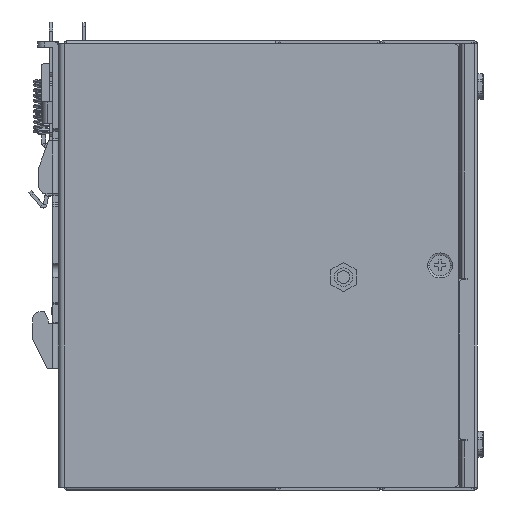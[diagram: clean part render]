
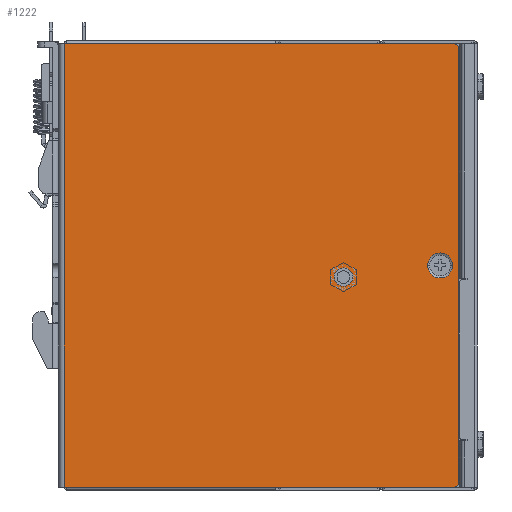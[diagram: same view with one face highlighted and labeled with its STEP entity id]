
A CAD part, front view. The second image highlights one B-rep face of the part: STEP entity #1222.
In plain terms, the highlighted planar face has unit normal (0, -1, 0).
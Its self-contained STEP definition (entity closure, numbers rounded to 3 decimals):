
#21=CARTESIAN_POINT('',(76.9,0.,-64.2));
#22=DIRECTION('',(0.,1.,0.));
#23=DIRECTION('',(0.,0.,-1.));
#24=AXIS2_PLACEMENT_3D('',#21,#22,#23);
#30=CARTESIAN_POINT('',(76.9,0.,-64.2));
#31=DIRECTION('',(0.,1.,0.));
#32=DIRECTION('',(0.,0.,1.));
#33=AXIS2_PLACEMENT_3D('',#30,#31,#32);
#38=CARTESIAN_POINT('',(103.5,0.,-61.));
#39=DIRECTION('',(0.,1.,0.));
#40=DIRECTION('',(1.,0.,0.));
#41=AXIS2_PLACEMENT_3D('',#38,#39,#40);
#46=CARTESIAN_POINT('',(103.5,0.,-61.));
#47=DIRECTION('',(0.,1.,0.));
#48=DIRECTION('',(-1.,0.,0.));
#49=AXIS2_PLACEMENT_3D('',#46,#47,#48);
#54=DIRECTION('',(0.,0.,1.));
#55=VECTOR('',#54,122.);
#56=CARTESIAN_POINT('',(0.,0.,-122.));
#57=LINE('',#56,#55);
#61=DIRECTION('',(1.,0.,0.));
#62=VECTOR('',#61,107.5);
#63=CARTESIAN_POINT('',(0.,0.,0.));
#64=LINE('',#63,#62);
#68=CARTESIAN_POINT('',(107.5,0.,-1.));
#69=DIRECTION('',(0.,-1.,0.));
#70=DIRECTION('',(1.,0.,0.));
#71=AXIS2_PLACEMENT_3D('',#68,#69,#70);
#76=CARTESIAN_POINT('',(107.5,0.,-121.));
#77=DIRECTION('',(0.,-1.,0.));
#78=DIRECTION('',(0.,0.,-1.));
#79=AXIS2_PLACEMENT_3D('',#76,#77,#78);
#84=DIRECTION('',(-1.,0.,0.));
#85=VECTOR('',#84,107.5);
#86=CARTESIAN_POINT('',(107.5,0.,-122.));
#87=LINE('',#86,#85);
#211=DIRECTION('',(0.,0.,1.));
#212=VECTOR('',#211,120.);
#213=CARTESIAN_POINT('',(108.5,0.,-121.));
#214=LINE('',#213,#212);
#1135=CARTESIAN_POINT('',(76.9,0.,-66.7));
#1136=CARTESIAN_POINT('',(76.9,0.,-61.7));
#1137=VERTEX_POINT('',#1135);
#1138=VERTEX_POINT('',#1136);
#1155=CARTESIAN_POINT('',(106.95,0.,-61.));
#1156=CARTESIAN_POINT('',(100.05,0.,-61.));
#1157=VERTEX_POINT('',#1155);
#1158=VERTEX_POINT('',#1156);
#1163=CARTESIAN_POINT('',(107.5,0.,-122.));
#1164=CARTESIAN_POINT('',(108.5,0.,-121.));
#1165=VERTEX_POINT('',#1163);
#1166=VERTEX_POINT('',#1164);
#1171=CARTESIAN_POINT('',(108.5,0.,-1.));
#1172=CARTESIAN_POINT('',(107.5,0.,0.));
#1173=VERTEX_POINT('',#1171);
#1174=VERTEX_POINT('',#1172);
#1184=CARTESIAN_POINT('',(0.,0.,0.));
#1186=VERTEX_POINT('',#1184);
#1187=CARTESIAN_POINT('',(0.,0.,-122.));
#1188=VERTEX_POINT('',#1187);
#1191=CARTESIAN_POINT('',(0.,0.,0.));
#1192=DIRECTION('',(0.,1.,0.));
#1193=DIRECTION('',(1.,0.,0.));
#1194=AXIS2_PLACEMENT_3D('',#1191,#1192,#1193);
#1195=PLANE('',#1194);
#1197=ORIENTED_EDGE('',*,*,#1196,.T.);
#1199=ORIENTED_EDGE('',*,*,#1198,.T.);
#1201=ORIENTED_EDGE('',*,*,#1200,.F.);
#1203=ORIENTED_EDGE('',*,*,#1202,.F.);
#1205=ORIENTED_EDGE('',*,*,#1204,.F.);
#1207=ORIENTED_EDGE('',*,*,#1206,.T.);
#1208=EDGE_LOOP('',(#1197,#1199,#1201,#1203,#1205,#1207));
#1209=FACE_OUTER_BOUND('',#1208,.F.);
#1211=ORIENTED_EDGE('',*,*,#1210,.F.);
#1213=ORIENTED_EDGE('',*,*,#1212,.F.);
#1214=EDGE_LOOP('',(#1211,#1213));
#1215=FACE_BOUND('',#1214,.F.);
#1217=ORIENTED_EDGE('',*,*,#1216,.F.);
#1219=ORIENTED_EDGE('',*,*,#1218,.F.);
#1220=EDGE_LOOP('',(#1217,#1219));
#1221=FACE_BOUND('',#1220,.F.);
#25=CIRCLE('',#24,2.5);
#34=CIRCLE('',#33,2.5);
#42=CIRCLE('',#41,3.45);
#50=CIRCLE('',#49,3.45);
#72=CIRCLE('',#71,1.);
#80=CIRCLE('',#79,1.);
#1196=EDGE_CURVE('',#1188,#1186,#57,.T.);
#1198=EDGE_CURVE('',#1186,#1174,#64,.T.);
#1200=EDGE_CURVE('',#1173,#1174,#72,.T.);
#1202=EDGE_CURVE('',#1166,#1173,#214,.T.);
#1204=EDGE_CURVE('',#1165,#1166,#80,.T.);
#1206=EDGE_CURVE('',#1165,#1188,#87,.T.);
#1210=EDGE_CURVE('',#1157,#1158,#42,.T.);
#1212=EDGE_CURVE('',#1158,#1157,#50,.T.);
#1216=EDGE_CURVE('',#1137,#1138,#25,.T.);
#1218=EDGE_CURVE('',#1138,#1137,#34,.T.);
#1222=ADVANCED_FACE('',(#1209,#1215,#1221),#1195,.F.);
